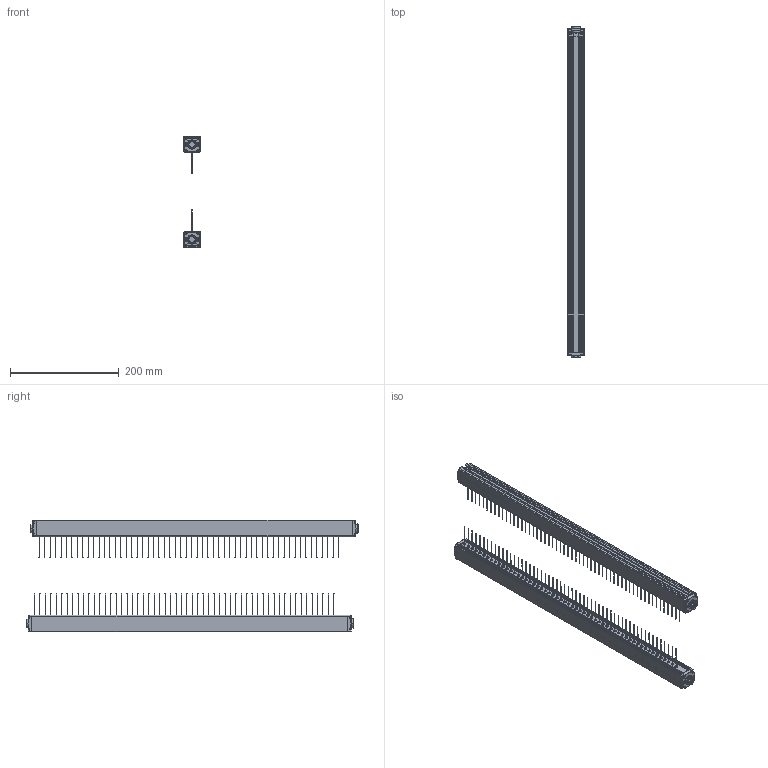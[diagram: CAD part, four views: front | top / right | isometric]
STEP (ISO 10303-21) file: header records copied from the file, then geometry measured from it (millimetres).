
FILE_DESCRIPTION (( 'STEP AP203' ), '1' );
FILE_NAME ('ZDA5610-580光位置.STEP', '2024-09-14T07:07:59', ( '微软用户' ), ( '微软中国' ), 'SwSTEP 2.0', 'SolidWorks 2020', '' );
FILE_SCHEMA (( 'CONFIG_CONTROL_DESIGN' ));
Length unit declared in the file: millimetre
Products named in the file (5): 錨璃10; 錨璃8 - 萵掛 (2); 錨璃8; ZDA5610-580嫖弇离; 錨璃1
Assembly tree (8 placements, depth 2):
  ZDA5610-580嫖弇离
    錨璃1  x2
    錨璃8  x2
    錨璃8 - 萵掛 (2)  x2
    錨璃10  x2
Bounding box: 30.24 x 610.03 x 204.47 mm (x, y, z)
Volume: 376794.4 mm3; surface area: 410230.9 mm2
Topology: 8 solids, 8 shells, 1728 faces, 4094 edges, 2600 vertices
Faces by surface type: cylinder 766, plane 698, cone 120, bspline 64, torus 48, sphere 32
Entity records: 27290 total; most frequent: CARTESIAN_POINT 6364, DIRECTION 4450, ORIENTED_EDGE 4070, EDGE_CURVE 2035, AXIS2_PLACEMENT_3D 1691, VERTEX_POINT 1300, VECTOR 1068, LINE 1068
